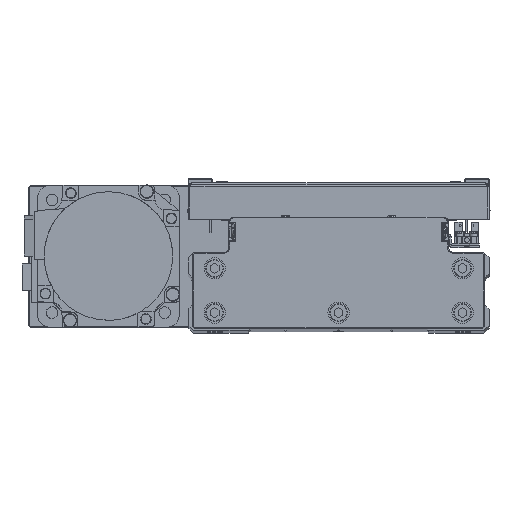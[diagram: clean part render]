
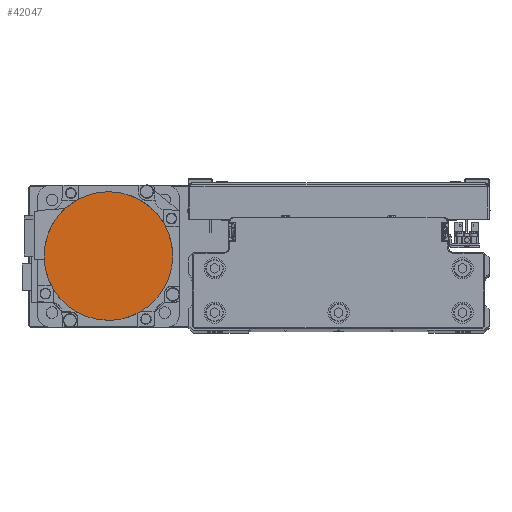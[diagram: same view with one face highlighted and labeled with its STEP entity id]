
A CAD part, top view. The second image highlights one B-rep face of the part: STEP entity #42047.
In plain terms, the highlighted planar face has unit normal (0, 0, 1) as drawn and (0, 0, -1) by its records, which use the part's own axes.
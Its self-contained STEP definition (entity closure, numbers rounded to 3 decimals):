
#827 = EDGE_CURVE ( 'NONE', #20405, #42639, #17542, .T. ) ;
#1388 = CARTESIAN_POINT ( 'NONE',  ( -9.412, 35.139, -122.2 ) ) ;
#1595 = CARTESIAN_POINT ( 'NONE',  ( -36.3, 2.376, -122.2 ) ) ;
#2171 = ORIENTED_EDGE ( 'NONE', *, *, #18070, .F. ) ;
#2313 = AXIS2_PLACEMENT_3D ( 'NONE', #37435, #6385, #20193 ) ;
#2542 = CARTESIAN_POINT ( 'NONE',  ( -31.502, -18.192, -122.2 ) ) ;
#3342 = FACE_OUTER_BOUND ( 'NONE', #22275, .T. ) ;
#4788 = CARTESIAN_POINT ( 'NONE',  ( 0., 36.3, -122.2 ) ) ;
#5004 = CARTESIAN_POINT ( 'NONE',  ( -34.446, 11.696, -122.2 ) ) ;
#5495 = VERTEX_POINT ( 'NONE', #30890 ) ;
#5678 = EDGE_CURVE ( 'NONE', #21104, #5495, #17610, .T. ) ;
#5927 = CARTESIAN_POINT ( 'NONE',  ( -35.139, -9.412, -122.2 ) ) ;
#6166 = CARTESIAN_POINT ( 'NONE',  ( -2.376, -36.3, -122.2 ) ) ;
#6385 = DIRECTION ( 'NONE',  ( 0., 0., 1. ) ) ;
#7479 = ORIENTED_EDGE ( 'NONE', *, *, #827, .F. ) ;
#7587 = CARTESIAN_POINT ( 'NONE',  ( -36.3, 0., -122.2 ) ) ;
#8424 = CARTESIAN_POINT ( 'NONE',  ( -28.862, 22.143, -122.2 ) ) ;
#9346 = CARTESIAN_POINT ( 'NONE',  ( -36.3, 0., -122.2 ) ) ;
#9558 = CARTESIAN_POINT ( 'NONE',  ( -11.696, -34.446, -122.2 ) ) ;
#11605 = DIRECTION ( 'NONE',  ( -1., 0., 0. ) ) ;
#11824 = CARTESIAN_POINT ( 'NONE',  ( -22.143, 28.862, -122.2 ) ) ;
#12971 = CARTESIAN_POINT ( 'NONE',  ( -22.143, -28.862, -122.2 ) ) ;
#13774 = DIRECTION ( 'NONE',  ( 1., 0., 0. ) ) ;
#15152 = ORIENTED_EDGE ( 'NONE', *, *, #5678, .F. ) ;
#15213 = CARTESIAN_POINT ( 'NONE',  ( -11.696, 34.446, -122.2 ) ) ;
#15442 = CARTESIAN_POINT ( 'NONE',  ( -36.3, 0., -122.2 ) ) ;
#15765 = ORIENTED_EDGE ( 'NONE', *, *, #38465, .F. ) ;
#16373 = CARTESIAN_POINT ( 'NONE',  ( -28.862, -22.143, -122.2 ) ) ;
#16616 = B_SPLINE_CURVE_WITH_KNOTS ( 'NONE', 3,
 ( #9346, #23140, #36980, #5927, #19753, #33590, #2542, #16373, #30188, #44035, #12971, #26771, #40600, #9558, #23368, #37211, #6166, #19979 ),
 .UNSPECIFIED., .F., .F.,
 ( 4, 2, 2, 2, 2, 2, 2, 2, 4 ),
 ( 0., 0.125, 0.25, 0.375, 0.5, 0.625, 0.75, 0.875, 1. ),
 .UNSPECIFIED. ) ;
#17162 = PLANE ( 'NONE',  #24986 ) ;
#17542 = B_SPLINE_CURVE_WITH_KNOTS ( 'NONE', 3,
 ( #4788, #18611, #32442, #1388, #15213, #29013, #42864, #11824, #25624, #39466, #8424, #22227, #36059, #5004, #18823, #32653, #1595, #15442 ),
 .UNSPECIFIED., .F., .F.,
 ( 4, 2, 2, 2, 2, 2, 2, 2, 4 ),
 ( 0., 0.125, 0.25, 0.375, 0.5, 0.625, 0.75, 0.875, 1. ),
 .UNSPECIFIED. ) ;
#17610 = CIRCLE ( 'NONE', #42955, 36.3 ) ;
#18070 = EDGE_CURVE ( 'NONE', #42639, #21104, #16616, .T. ) ;
#18611 = CARTESIAN_POINT ( 'NONE',  ( -2.376, 36.3, -122.2 ) ) ;
#18823 = CARTESIAN_POINT ( 'NONE',  ( -35.139, 9.412, -122.2 ) ) ;
#19483 = CARTESIAN_POINT ( 'NONE',  ( 0., -36.3, -122.2 ) ) ;
#19753 = CARTESIAN_POINT ( 'NONE',  ( -34.446, -11.696, -122.2 ) ) ;
#19979 = CARTESIAN_POINT ( 'NONE',  ( 0., -36.3, -122.2 ) ) ;
#20193 = DIRECTION ( 'NONE',  ( -1., 0., 0. ) ) ;
#20405 = VERTEX_POINT ( 'NONE', #37327 ) ;
#21104 = VERTEX_POINT ( 'NONE', #19483 ) ;
#21836 = CIRCLE ( 'NONE', #2313, 36.3 ) ;
#22227 = CARTESIAN_POINT ( 'NONE',  ( -31.502, 18.192, -122.2 ) ) ;
#22275 = EDGE_LOOP ( 'NONE', ( #15152, #2171, #7479, #15765 ) ) ;
#23140 = CARTESIAN_POINT ( 'NONE',  ( -36.3, -2.376, -122.2 ) ) ;
#23368 = CARTESIAN_POINT ( 'NONE',  ( -9.412, -35.139, -122.2 ) ) ;
#24986 = AXIS2_PLACEMENT_3D ( 'NONE', #30991, #39773, #13774 ) ;
#25624 = CARTESIAN_POINT ( 'NONE',  ( -23.988, 27.348, -122.2 ) ) ;
#26771 = CARTESIAN_POINT ( 'NONE',  ( -18.192, -31.502, -122.2 ) ) ;
#28810 = CARTESIAN_POINT ( 'NONE',  ( 0., 0., -122.2 ) ) ;
#29013 = CARTESIAN_POINT ( 'NONE',  ( -16.086, 32.628, -122.2 ) ) ;
#30188 = CARTESIAN_POINT ( 'NONE',  ( -27.348, -23.988, -122.2 ) ) ;
#30890 = CARTESIAN_POINT ( 'NONE',  ( 36.3, 0., -122.2 ) ) ;
#30991 = CARTESIAN_POINT ( 'NONE',  ( 0., 0., -122.2 ) ) ;
#32442 = CARTESIAN_POINT ( 'NONE',  ( -4.752, 36.066, -122.2 ) ) ;
#32653 = CARTESIAN_POINT ( 'NONE',  ( -36.066, 4.752, -122.2 ) ) ;
#33590 = CARTESIAN_POINT ( 'NONE',  ( -32.628, -16.086, -122.2 ) ) ;
#36059 = CARTESIAN_POINT ( 'NONE',  ( -32.628, 16.086, -122.2 ) ) ;
#36980 = CARTESIAN_POINT ( 'NONE',  ( -36.066, -4.752, -122.2 ) ) ;
#37211 = CARTESIAN_POINT ( 'NONE',  ( -4.752, -36.066, -122.2 ) ) ;
#37327 = CARTESIAN_POINT ( 'NONE',  ( 0., 36.3, -122.2 ) ) ;
#37435 = CARTESIAN_POINT ( 'NONE',  ( 0., 0., -122.2 ) ) ;
#38465 = EDGE_CURVE ( 'NONE', #5495, #20405, #21836, .T. ) ;
#39466 = CARTESIAN_POINT ( 'NONE',  ( -27.348, 23.988, -122.2 ) ) ;
#39773 = DIRECTION ( 'NONE',  ( 0., 0., 1. ) ) ;
#40600 = CARTESIAN_POINT ( 'NONE',  ( -16.086, -32.628, -122.2 ) ) ;
#42047 = ADVANCED_FACE ( 'NONE', ( #3342 ), #17162, .F. ) ;
#42639 = VERTEX_POINT ( 'NONE', #7587 ) ;
#42655 = DIRECTION ( 'NONE',  ( 0., 0., 1. ) ) ;
#42864 = CARTESIAN_POINT ( 'NONE',  ( -18.192, 31.502, -122.2 ) ) ;
#42955 = AXIS2_PLACEMENT_3D ( 'NONE', #28810, #42655, #11605 ) ;
#44035 = CARTESIAN_POINT ( 'NONE',  ( -23.988, -27.348, -122.2 ) ) ;
